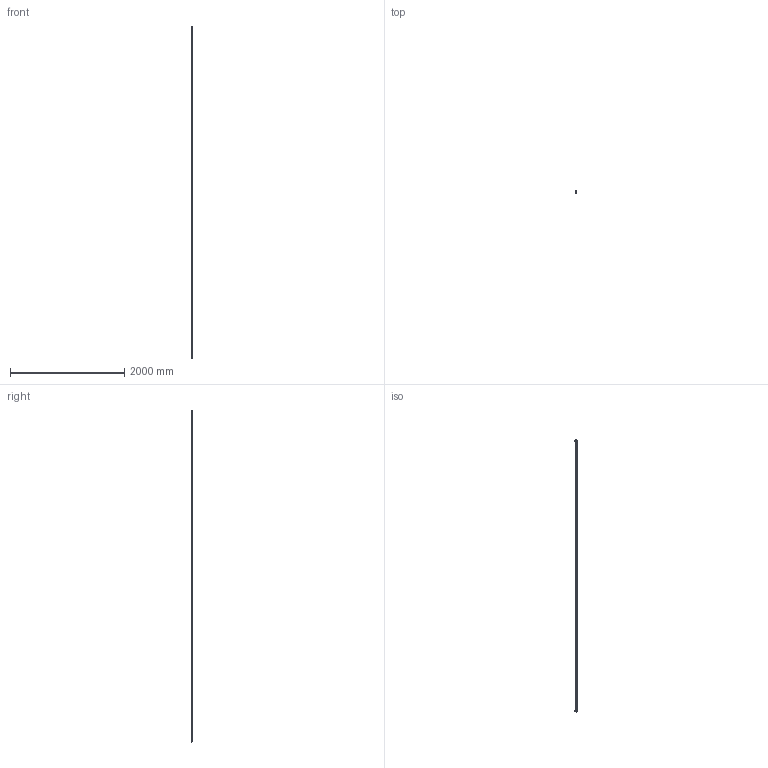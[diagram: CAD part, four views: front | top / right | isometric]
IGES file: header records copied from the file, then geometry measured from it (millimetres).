
Start section: 3D InterOp IGES (v. 2019 1.0.2), Spatial Corp. Copyright (c) 1999-2017.
Global section: file name: R1605.3_size25.igs; native system: Spatial Corp.; preprocessor: 3D InterOp GENERIC/IGES 3.0; author: Noname; organization: Noname; date: 20220629.163430; units: millimetre
Bounding box: 28.89 x 32.45 x 5820.3 mm (x, y, z)
Surface area: 887763.6 mm2 (no closed solid volume)
Topology: 0 solids, 0 shells, 821 faces, 4040 edges, 4036 vertices
Faces by surface type: revolution 524, extrusion 297
